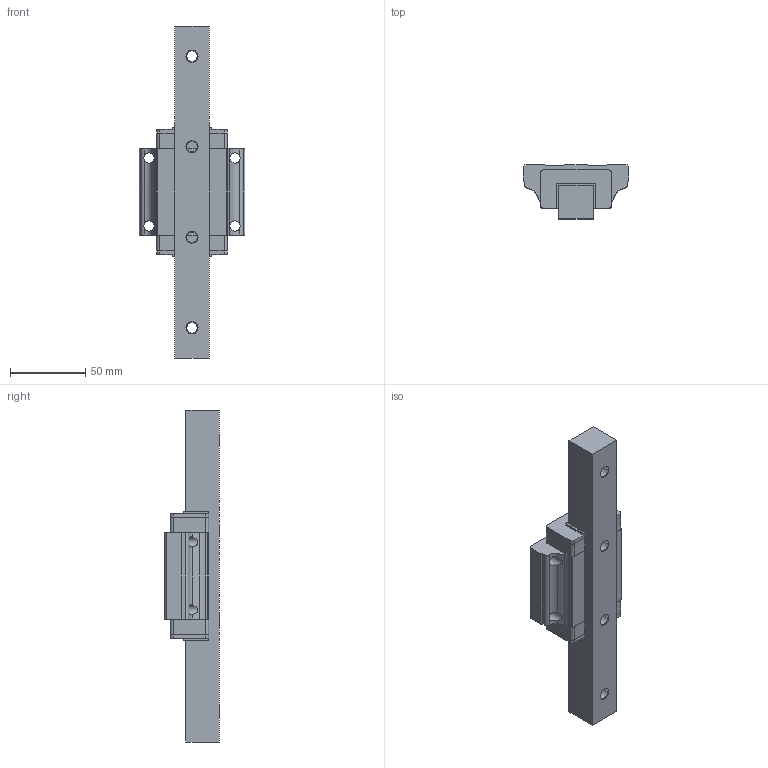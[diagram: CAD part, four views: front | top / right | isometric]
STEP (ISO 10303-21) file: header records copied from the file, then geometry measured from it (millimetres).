
FILE_DESCRIPTION((''),'2;1');
FILE_NAME('E:\PDF郪磁芞\DFH25A.STP','2018-01-27T14:17:05',(''),(''),'STEP Write','Mastercam V9 ... CNC Software, Inc.','');
FILE_SCHEMA(('CONFIG_CONTROL_DESIGN'));
Length unit declared in the file: millimetre
Bounding box: 70 x 36 x 220 mm (x, y, z)
Volume: 205292.2 mm3; surface area: 50594.8 mm2
Topology: 6 solids, 6 shells, 134 faces, 687 edges, 882 vertices
Faces by surface type: plane 88, cylinder 38, cone 8
Full cylindrical faces by diameter (mm): 6.8 x4, 7 x4, 11 x4
Entity records: 7143 total; most frequent: CARTESIAN_POINT 2409, DIRECTION 1012, ORIENTED_EDGE 700, VECTOR 472, LINE 472, EDGE_CURVE 350, TRIMMED_CURVE 301, AXIS2_PLACEMENT_3D 270
